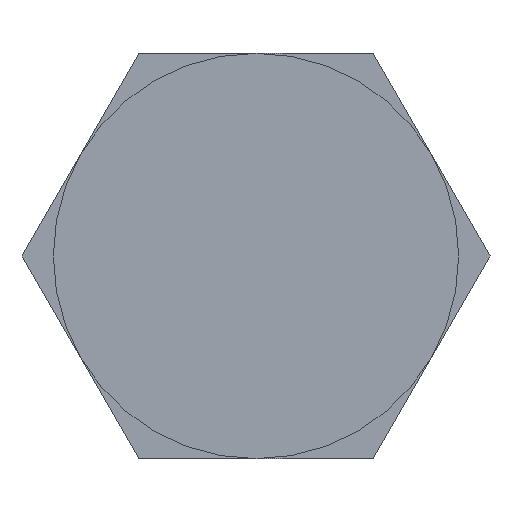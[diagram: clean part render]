
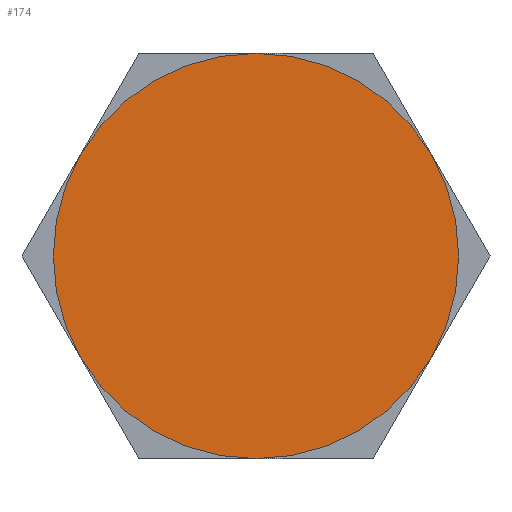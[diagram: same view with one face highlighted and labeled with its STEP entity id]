
A CAD part, left-side view. The second image highlights one B-rep face of the part: STEP entity #174.
In plain terms, the highlighted planar face has unit normal (-1, 0, 0).
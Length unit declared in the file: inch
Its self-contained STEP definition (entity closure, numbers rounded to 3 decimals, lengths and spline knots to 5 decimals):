
#82 = CARTESIAN_POINT ( 'NONE',  ( -4.34318, -0.16473, 0.625 ) ) ;
#174 = ADVANCED_FACE ( 'NONE', ( #441 ), #1134, .T. ) ;
#441 = FACE_OUTER_BOUND ( 'NONE', #1323, .T. ) ;
#621 = AXIS2_PLACEMENT_3D ( 'NONE', #1419, #1420, #1421 ) ;
#631 = AXIS2_PLACEMENT_3D ( 'NONE', #928, #929, #930 ) ;
#802 = CIRCLE ( 'NONE', #621, 0.625 ) ;
#840 = CIRCLE ( 'NONE', #631, 0.625 ) ;
#928 = CARTESIAN_POINT ( 'NONE',  ( -4.34318, -0.16473, 0. ) ) ;
#929 = DIRECTION ( 'NONE',  ( 1., 0., 0. ) ) ;
#930 = DIRECTION ( 'NONE',  ( 0., 0., -1. ) ) ;
#1001 = CARTESIAN_POINT ( 'NONE',  ( -4.34318, -0.16473, -0.625 ) ) ;
#1061 = VERTEX_POINT ( 'NONE', #1001 ) ;
#1074 = VERTEX_POINT ( 'NONE', #82 ) ;
#1128 = AXIS2_PLACEMENT_3D ( 'NONE', #1136, #1138, #1139 ) ;
#1134 = PLANE ( 'NONE',  #1128 ) ;
#1136 = CARTESIAN_POINT ( 'NONE',  ( -4.34318, 0.46027, 0. ) ) ;
#1138 = DIRECTION ( 'NONE',  ( -1., 0., 0. ) ) ;
#1139 = DIRECTION ( 'NONE',  ( 0., 0., 1. ) ) ;
#1172 = ORIENTED_EDGE ( 'NONE', *, *, #1554, .F. ) ;
#1180 = ORIENTED_EDGE ( 'NONE', *, *, #1530, .F. ) ;
#1323 = EDGE_LOOP ( 'NONE', ( #1180, #1172 ) ) ;
#1419 = CARTESIAN_POINT ( 'NONE',  ( -4.34318, -0.16473, 0. ) ) ;
#1420 = DIRECTION ( 'NONE',  ( 1., 0., 0. ) ) ;
#1421 = DIRECTION ( 'NONE',  ( 0., 0., -1. ) ) ;
#1530 = EDGE_CURVE ( 'NONE', #1061, #1074, #802, .T. ) ;
#1554 = EDGE_CURVE ( 'NONE', #1074, #1061, #840, .T. ) ;
